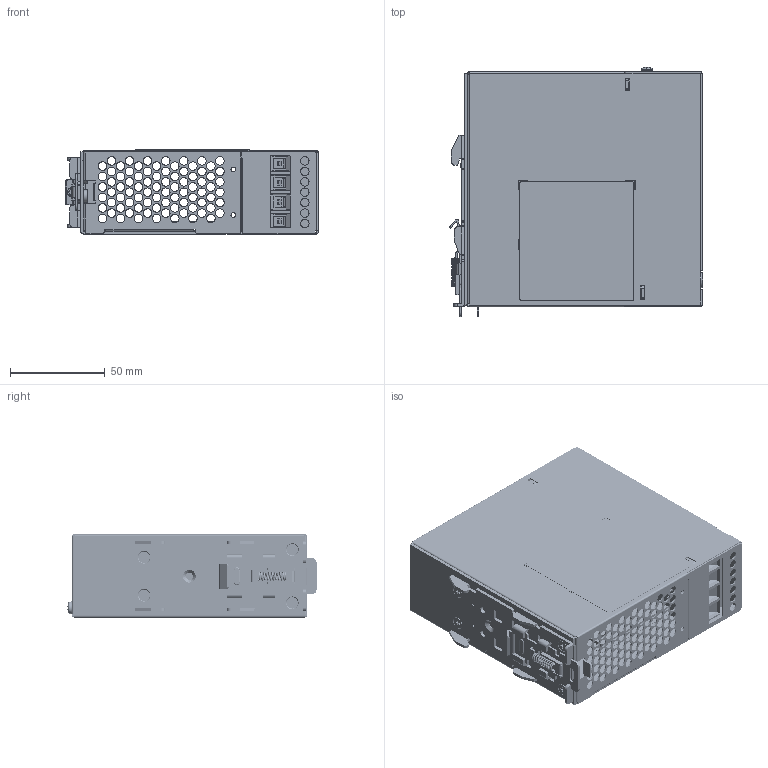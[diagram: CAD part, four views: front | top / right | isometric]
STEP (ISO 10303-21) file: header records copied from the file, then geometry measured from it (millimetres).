
FILE_DESCRIPTION((''),'2;1');
FILE_NAME('DDR-80A_20260429_SW0001','2026-04-29T17:28:02',('JOSH.LEE'),(''),'CREO PARAMETRIC BY PTC INC, 2024014','CREO PARAMETRIC BY PTC INC, 2024014','');
FILE_SCHEMA(('CONFIG_CONTROL_DESIGN','GEOMETRIC_VALIDATION_PROPERTIES_MIM'));
Products named in the file (1): DDR-80A_20260429_SW0001
Bounding box: 133.74 x 131.22 x 44.25 mm (x, y, z)
Volume: 114514.1 mm3; surface area: 154068.6 mm2
Topology: 1 solids, 1 shells, 5146 faces, 14566 edges, 9315 vertices
Faces by surface type: plane 2993, cylinder 1733, bspline 141, cone 101, sphere 94, torus 76, extrusion 8
Entity records: 199398 total; most frequent: CARTESIAN_POINT 65160, ORIENTED_EDGE 28936, DIRECTION 26842, EDGE_CURVE 14468, VECTOR 9782, LINE 9774, VERTEX_POINT 9315, AXIS2_PLACEMENT_3D 8530
